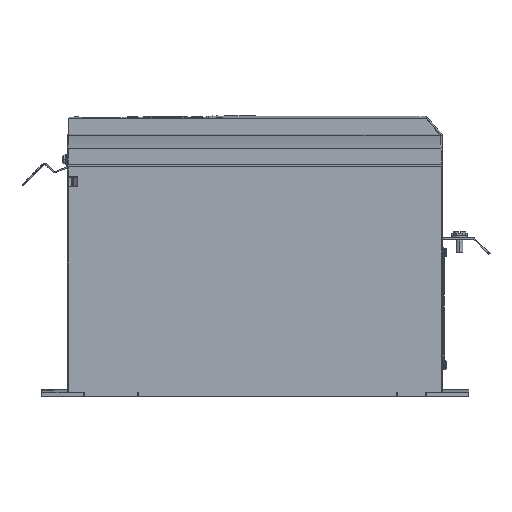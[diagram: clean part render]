
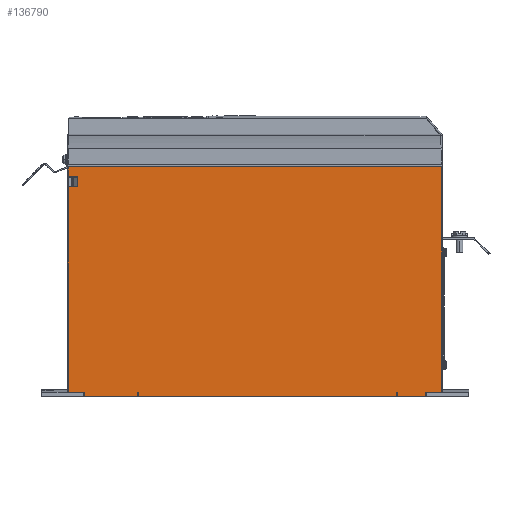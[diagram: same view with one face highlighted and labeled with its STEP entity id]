
A CAD part, left-side view. The second image highlights one B-rep face of the part: STEP entity #136790.
In plain terms, the highlighted planar face has unit normal (-1, 0, 0).
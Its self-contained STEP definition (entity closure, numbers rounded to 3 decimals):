
#49443=DIRECTION('',(0.,1.,0.));
#49444=VECTOR('',#49443,8.146);
#49445=CARTESIAN_POINT('',(-82.5,166.604,205.45));
#49446=LINE('',#49445,#49444);
#49450=DIRECTION('',(0.,0.,1.));
#49451=VECTOR('',#49450,9.2);
#49452=CARTESIAN_POINT('',(-82.5,174.75,205.45));
#49453=LINE('',#49452,#49451);
#49457=DIRECTION('',(0.,1.,0.));
#49458=VECTOR('',#49457,349.25);
#49459=CARTESIAN_POINT('',(-82.5,-174.5,214.65));
#49460=LINE('',#49459,#49458);
#49464=DIRECTION('',(0.,0.,-1.));
#49465=VECTOR('',#49464,210.882);
#49466=CARTESIAN_POINT('',(-82.5,-174.5,214.65));
#49467=LINE('',#49466,#49465);
#49471=DIRECTION('',(0.,1.,0.));
#49472=VECTOR('',#49471,14.95);
#49473=CARTESIAN_POINT('',(-82.5,-174.5,3.768));
#49474=LINE('',#49473,#49472);
#49478=DIRECTION('',(0.,0.,1.));
#49479=VECTOR('',#49478,3.768);
#49480=CARTESIAN_POINT('',(-82.5,-132.589,0.));
#49481=LINE('',#49480,#49479);
#49485=DIRECTION('',(0.,1.,0.));
#49486=VECTOR('',#49485,0.5);
#49487=CARTESIAN_POINT('',(-82.5,-132.589,3.768));
#49488=LINE('',#49487,#49486);
#49492=DIRECTION('',(0.,0.,-1.));
#49493=VECTOR('',#49492,3.775);
#49494=CARTESIAN_POINT('',(-82.5,-132.089,3.768));
#49495=LINE('',#49494,#49493);
#49499=DIRECTION('',(0.,1.,0.));
#49500=VECTOR('',#49499,241.178);
#49501=CARTESIAN_POINT('',(-82.5,-132.089,-0.007));
#49502=LINE('',#49501,#49500);
#49506=DIRECTION('',(0.,0.,1.));
#49507=VECTOR('',#49506,3.775);
#49508=CARTESIAN_POINT('',(-82.5,109.089,-0.007));
#49509=LINE('',#49508,#49507);
#49513=DIRECTION('',(0.,1.,0.));
#49514=VECTOR('',#49513,0.5);
#49515=CARTESIAN_POINT('',(-82.5,109.089,3.768));
#49516=LINE('',#49515,#49514);
#49520=DIRECTION('',(0.,0.,1.));
#49521=VECTOR('',#49520,3.768);
#49522=CARTESIAN_POINT('',(-82.5,109.589,0.));
#49523=LINE('',#49522,#49521);
#49527=DIRECTION('',(0.,1.,0.));
#49528=VECTOR('',#49527,15.594);
#49529=CARTESIAN_POINT('',(-82.5,159.156,3.768));
#49530=LINE('',#49529,#49528);
#49534=DIRECTION('',(0.,0.,1.));
#49535=VECTOR('',#49534,192.182);
#49536=CARTESIAN_POINT('',(-82.5,174.75,3.768));
#49537=LINE('',#49536,#49535);
#49541=DIRECTION('',(0.,1.,0.));
#49542=VECTOR('',#49541,8.854);
#49543=CARTESIAN_POINT('',(-82.5,165.896,195.95));
#49544=LINE('',#49543,#49542);
#49548=DIRECTION('',(0.,0.,-1.));
#49549=VECTOR('',#49548,9.);
#49550=CARTESIAN_POINT('',(-82.5,165.896,
204.95));
#49551=LINE('',#49550,#49549);
#49555=CARTESIAN_POINT('',(-82.5,165.896,
204.95));
#49556=CARTESIAN_POINT('',(-82.5,165.896,
204.967));
#49557=CARTESIAN_POINT('',(-82.5,165.899,
205.001));
#49558=CARTESIAN_POINT('',(-82.5,165.911,
205.055));
#49559=CARTESIAN_POINT('',(-82.5,165.933,
205.112));
#49560=CARTESIAN_POINT('',(-82.5,165.966,
205.17));
#49561=CARTESIAN_POINT('',(-82.5,166.014,
205.229));
#49562=CARTESIAN_POINT('',(-82.5,166.075,
205.285));
#49563=CARTESIAN_POINT('',(-82.5,166.152,
205.337));
#49564=CARTESIAN_POINT('',(-82.5,166.244,
205.383));
#49565=CARTESIAN_POINT('',(-82.5,166.352,
205.42));
#49566=CARTESIAN_POINT('',(-82.5,166.473,
205.444));
#49567=CARTESIAN_POINT('',(-82.5,166.559,
205.45));
#49568=CARTESIAN_POINT('',(-82.5,166.604,205.45));
#49973=CARTESIAN_POINT('',(-82.5,-174.5,3.768));
#49999=CARTESIAN_POINT('',(-82.5,174.75,3.768));
#52151=DIRECTION('',(0.,-1.,0.));
#52152=VECTOR('',#52151,26.961);
#52153=CARTESIAN_POINT('',(-82.5,-132.589,0.));
#52154=LINE('',#52153,#52152);
#52201=DIRECTION('',(0.,0.,1.));
#52202=VECTOR('',#52201,3.768);
#52203=CARTESIAN_POINT('',(-82.5,-159.55,0.));
#52204=LINE('',#52203,#52202);
#52912=DIRECTION('',(0.,0.,1.));
#52913=VECTOR('',#52912,3.768);
#52914=CARTESIAN_POINT('',(-82.5,159.156,0.));
#52915=LINE('',#52914,#52913);
#52955=DIRECTION('',(0.,-1.,0.));
#52956=VECTOR('',#52955,49.567);
#52957=CARTESIAN_POINT('',(-82.5,159.156,0.));
#52958=LINE('',#52957,#52956);
#64754=CARTESIAN_POINT('',(-82.5,-132.089,-0.007));
#64755=CARTESIAN_POINT('',(-82.5,109.089,-0.007));
#64756=VERTEX_POINT('',#64754);
#64757=VERTEX_POINT('',#64755);
#64763=CARTESIAN_POINT('',(-82.5,109.089,3.768));
#64765=VERTEX_POINT('',#64763);
#64767=CARTESIAN_POINT('',(-82.5,-132.089,3.768));
#64769=VERTEX_POINT('',#64767);
#64776=CARTESIAN_POINT('',(-82.5,-132.589,0.));
#64777=VERTEX_POINT('',#64776);
#64778=CARTESIAN_POINT('',(-82.5,-159.55,0.));
#64779=VERTEX_POINT('',#64778);
#64802=CARTESIAN_POINT('',(-82.5,-132.589,3.768));
#64803=VERTEX_POINT('',#64802);
#64804=CARTESIAN_POINT('',(-82.5,-159.55,3.768));
#64806=VERTEX_POINT('',#64804);
#64851=VERTEX_POINT('',#49973);
#64858=CARTESIAN_POINT('',(-82.5,109.589,0.));
#64859=VERTEX_POINT('',#64858);
#64860=CARTESIAN_POINT('',(-82.5,159.156,0.));
#64861=VERTEX_POINT('',#64860);
#64884=CARTESIAN_POINT('',(-82.5,109.589,3.768));
#64885=VERTEX_POINT('',#64884);
#64886=CARTESIAN_POINT('',(-82.5,159.156,3.768));
#64888=VERTEX_POINT('',#64886);
#65211=CARTESIAN_POINT('',(-82.5,-174.5,214.65));
#65213=VERTEX_POINT('',#65211);
#65902=CARTESIAN_POINT('',(-82.5,174.75,214.65));
#65903=VERTEX_POINT('',#65902);
#65904=VERTEX_POINT('',#49999);
#65943=CARTESIAN_POINT('',(-82.5,166.604,205.45));
#65944=CARTESIAN_POINT('',(-82.5,174.75,205.45));
#65945=VERTEX_POINT('',#65943);
#65946=VERTEX_POINT('',#65944);
#65998=VERTEX_POINT('',#49555);
#66002=CARTESIAN_POINT('',(-82.5,165.896,195.95));
#66003=VERTEX_POINT('',#66002);
#66257=CARTESIAN_POINT('',(-82.5,174.75,195.95));
#66259=VERTEX_POINT('',#66257);
#136741=CARTESIAN_POINT('',(-82.5,-175.,3.768));
#136742=DIRECTION('',(-1.,0.,0.));
#136743=DIRECTION('',(0.,0.,1.));
#136744=AXIS2_PLACEMENT_3D('',#136741,#136742,#136743);
#136745=PLANE('',#136744);
#136747=ORIENTED_EDGE('',*,*,#136746,.T.);
#136749=ORIENTED_EDGE('',*,*,#136748,.T.);
#136751=ORIENTED_EDGE('',*,*,#136750,.F.);
#136753=ORIENTED_EDGE('',*,*,#136752,.T.);
#136755=ORIENTED_EDGE('',*,*,#136754,.T.);
#136757=ORIENTED_EDGE('',*,*,#136756,.F.);
#136759=ORIENTED_EDGE('',*,*,#136758,.F.);
#136761=ORIENTED_EDGE('',*,*,#136760,.T.);
#136763=ORIENTED_EDGE('',*,*,#136762,.T.);
#136765=ORIENTED_EDGE('',*,*,#136764,.T.);
#136767=ORIENTED_EDGE('',*,*,#136766,.T.);
#136769=ORIENTED_EDGE('',*,*,#136768,.T.);
#136771=ORIENTED_EDGE('',*,*,#136770,.T.);
#136773=ORIENTED_EDGE('',*,*,#136772,.F.);
#136775=ORIENTED_EDGE('',*,*,#136774,.F.);
#136777=ORIENTED_EDGE('',*,*,#136776,.T.);
#136779=ORIENTED_EDGE('',*,*,#136778,.T.);
#136781=ORIENTED_EDGE('',*,*,#136780,.T.);
#136783=ORIENTED_EDGE('',*,*,#136782,.F.);
#136785=ORIENTED_EDGE('',*,*,#136784,.F.);
#136787=ORIENTED_EDGE('',*,*,#136786,.T.);
#136788=EDGE_LOOP('',(#136747,#136749,#136751,#136753,#136755,#136757,#136759,
#136761,#136763,#136765,#136767,#136769,#136771,#136773,#136775,#136777,#136779,
#136781,#136783,#136785,#136787));
#136789=FACE_OUTER_BOUND('',#136788,.F.);
#136790=ADVANCED_FACE('',(#136789),#136745,.T.);
#49569=B_SPLINE_CURVE_WITH_KNOTS('',3,(#49555,#49556,#49557,#49558,#49559,
#49560,#49561,#49562,#49563,#49564,#49565,#49566,#49567,#49568),.UNSPECIFIED.,
.F.,.F.,(4,1,1,1,1,1,1,1,1,1,1,4),(0.,0.091,0.182,
0.273,0.364,0.455,0.545,
0.636,0.727,0.818,0.909,1.),
.UNSPECIFIED.);
#136746=EDGE_CURVE('',#65945,#65946,#49446,.T.);
#136748=EDGE_CURVE('',#65946,#65903,#49453,.T.);
#136750=EDGE_CURVE('',#65213,#65903,#49460,.T.);
#136752=EDGE_CURVE('',#65213,#64851,#49467,.T.);
#136754=EDGE_CURVE('',#64851,#64806,#49474,.T.);
#136756=EDGE_CURVE('',#64779,#64806,#52204,.T.);
#136758=EDGE_CURVE('',#64777,#64779,#52154,.T.);
#136760=EDGE_CURVE('',#64777,#64803,#49481,.T.);
#136762=EDGE_CURVE('',#64803,#64769,#49488,.T.);
#136764=EDGE_CURVE('',#64769,#64756,#49495,.T.);
#136766=EDGE_CURVE('',#64756,#64757,#49502,.T.);
#136768=EDGE_CURVE('',#64757,#64765,#49509,.T.);
#136770=EDGE_CURVE('',#64765,#64885,#49516,.T.);
#136772=EDGE_CURVE('',#64859,#64885,#49523,.T.);
#136774=EDGE_CURVE('',#64861,#64859,#52958,.T.);
#136776=EDGE_CURVE('',#64861,#64888,#52915,.T.);
#136778=EDGE_CURVE('',#64888,#65904,#49530,.T.);
#136780=EDGE_CURVE('',#65904,#66259,#49537,.T.);
#136782=EDGE_CURVE('',#66003,#66259,#49544,.T.);
#136784=EDGE_CURVE('',#65998,#66003,#49551,.T.);
#136786=EDGE_CURVE('',#65998,#65945,#49569,.T.);
